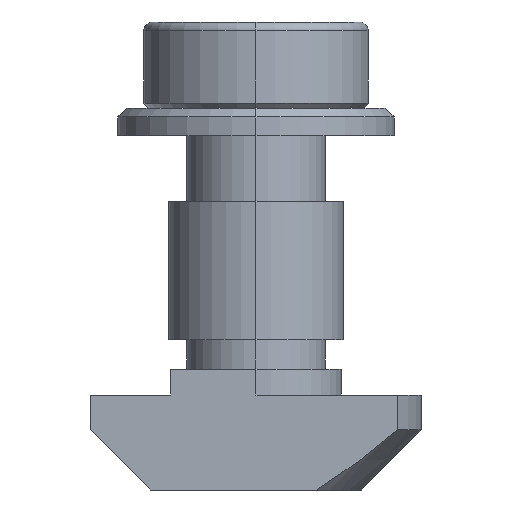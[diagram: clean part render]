
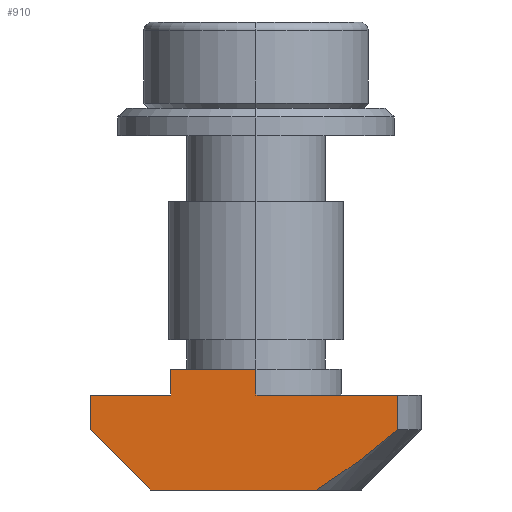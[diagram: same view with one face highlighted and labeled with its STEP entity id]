
A CAD part, left-side view. The second image highlights one B-rep face of the part: STEP entity #910.
In plain terms, the highlighted planar face has unit normal (-1, 0, 0).
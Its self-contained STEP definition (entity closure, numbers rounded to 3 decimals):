
#8 = EDGE_CURVE ( 'NONE', #2262, #1637, #306, .T. ) ;
#12 = ORIENTED_EDGE ( 'NONE', *, *, #2731, .T. ) ;
#29 = VERTEX_POINT ( 'NONE', #2485 ) ;
#39 = CARTESIAN_POINT ( 'NONE',  ( -4.95, 9.6, -6. ) ) ;
#57 = CARTESIAN_POINT ( 'NONE',  ( -4.95, -5.138, -10.437 ) ) ;
#90 = VECTOR ( 'NONE', #886, 1000. ) ;
#114 = CARTESIAN_POINT ( 'NONE',  ( -4.95, -3.494, -11.5 ) ) ;
#124 = ORIENTED_EDGE ( 'NONE', *, *, #2402, .T. ) ;
#129 = DIRECTION ( 'NONE',  ( 0., 0., 1. ) ) ;
#150 = DIRECTION ( 'NONE',  ( 0., -1., 0. ) ) ;
#172 = EDGE_CURVE ( 'NONE', #1883, #2743, #2304, .T. ) ;
#220 = DIRECTION ( 'NONE',  ( 0., 1., 0. ) ) ;
#236 = CARTESIAN_POINT ( 'NONE',  ( -4.95, 9.6, -8. ) ) ;
#292 = CARTESIAN_POINT ( 'NONE',  ( -4.95, -8.195, -8. ) ) ;
#306 = LINE ( 'NONE', #2214, #2120 ) ;
#331 = ORIENTED_EDGE ( 'NONE', *, *, #2922, .F. ) ;
#466 = CARTESIAN_POINT ( 'NONE',  ( -4.95, 4.95, -4.5 ) ) ;
#498 = ORIENTED_EDGE ( 'NONE', *, *, #8, .T. ) ;
#528 = CARTESIAN_POINT ( 'NONE',  ( -4.95, -4.95, -4.5 ) ) ;
#534 = CARTESIAN_POINT ( 'NONE',  ( -4.95, -8.195, -6. ) ) ;
#690 = CARTESIAN_POINT ( 'NONE',  ( -4.95, -8.195, -8. ) ) ;
#693 = VERTEX_POINT ( 'NONE', #2216 ) ;
#809 = VECTOR ( 'NONE', #2486, 1000. ) ;
#816 = DIRECTION ( 'NONE',  ( 0., 0., -1. ) ) ;
#821 = CARTESIAN_POINT ( 'NONE',  ( -4.95, -3.921, -11.255 ) ) ;
#860 = CARTESIAN_POINT ( 'NONE',  ( -4.95, 4.95, -4.5 ) ) ;
#886 = DIRECTION ( 'NONE',  ( 0., 0., 1. ) ) ;
#901 = ORIENTED_EDGE ( 'NONE', *, *, #2060, .T. ) ;
#910 = ADVANCED_FACE ( 'NONE', ( #2632 ), #2385, .F. ) ;
#964 = LINE ( 'NONE', #528, #2910 ) ;
#968 = EDGE_CURVE ( 'NONE', #2953, #29, #2436, .T. ) ;
#998 = VECTOR ( 'NONE', #1282, 1000. ) ;
#1011 = CARTESIAN_POINT ( 'NONE',  ( -4.95, -5.532, -10.148 ) ) ;
#1042 = VECTOR ( 'NONE', #2438, 1000. ) ;
#1101 = ORIENTED_EDGE ( 'NONE', *, *, #1983, .F. ) ;
#1179 = DIRECTION ( 'NONE',  ( 1., 0., 0. ) ) ;
#1206 = VERTEX_POINT ( 'NONE', #466 ) ;
#1282 = DIRECTION ( 'NONE',  ( 0., -1., 0. ) ) ;
#1295 = CARTESIAN_POINT ( 'NONE',  ( -4.95, -7.451, -8.636 ) ) ;
#1315 = LINE ( 'NONE', #2488, #998 ) ;
#1317 = ORIENTED_EDGE ( 'NONE', *, *, #2938, .T. ) ;
#1330 = LINE ( 'NONE', #860, #2769 ) ;
#1341 = LINE ( 'NONE', #2306, #90 ) ;
#1377 = B_SPLINE_CURVE_WITH_KNOTS ( 'NONE', 3,
 ( #114, #821, #1763, #57, #1011, #2292, #1295, #292 ),
 .UNSPECIFIED., .F., .F.,
 ( 4, 2, 2, 4 ),
 ( 0., 0.001, 0.003, 0.006 ),
 .UNSPECIFIED. ) ;
#1467 = VECTOR ( 'NONE', #816, 1000. ) ;
#1509 = CARTESIAN_POINT ( 'NONE',  ( -4.95, -9.6, -6. ) ) ;
#1513 = VERTEX_POINT ( 'NONE', #2748 ) ;
#1529 = CARTESIAN_POINT ( 'NONE',  ( -4.95, 9.6, -6. ) ) ;
#1637 = VERTEX_POINT ( 'NONE', #534 ) ;
#1685 = CARTESIAN_POINT ( 'NONE',  ( -4.95, 0., -6. ) ) ;
#1704 = ORIENTED_EDGE ( 'NONE', *, *, #3038, .F. ) ;
#1708 = VECTOR ( 'NONE', #150, 1000. ) ;
#1763 = CARTESIAN_POINT ( 'NONE',  ( -4.95, -4.333, -10.99 ) ) ;
#1794 = AXIS2_PLACEMENT_3D ( 'NONE', #2613, #1179, #220 ) ;
#1843 = CARTESIAN_POINT ( 'NONE',  ( -4.95, -3.494, -11.5 ) ) ;
#1883 = VERTEX_POINT ( 'NONE', #2376 ) ;
#1983 = EDGE_CURVE ( 'NONE', #1206, #693, #964, .T. ) ;
#2060 = EDGE_CURVE ( 'NONE', #1206, #1513, #1330, .T. ) ;
#2120 = VECTOR ( 'NONE', #129, 1000. ) ;
#2201 = EDGE_LOOP ( 'NONE', ( #3045, #1317, #498, #331, #12, #1101, #901, #1704, #3050, #124 ) ) ;
#2214 = CARTESIAN_POINT ( 'NONE',  ( -4.95, -8.195, -11.501 ) ) ;
#2216 = CARTESIAN_POINT ( 'NONE',  ( -4.95, 0., -4.5 ) ) ;
#2232 = LINE ( 'NONE', #1509, #809 ) ;
#2262 = VERTEX_POINT ( 'NONE', #690 ) ;
#2292 = CARTESIAN_POINT ( 'NONE',  ( -4.95, -6.696, -9.258 ) ) ;
#2304 = LINE ( 'NONE', #2804, #1708 ) ;
#2306 = CARTESIAN_POINT ( 'NONE',  ( -4.95, 0., -13. ) ) ;
#2313 = DIRECTION ( 'NONE',  ( 0., 0., -1. ) ) ;
#2376 = CARTESIAN_POINT ( 'NONE',  ( -4.95, 6.1, -11.5 ) ) ;
#2385 = PLANE ( 'NONE',  #1794 ) ;
#2394 = VERTEX_POINT ( 'NONE', #1685 ) ;
#2402 = EDGE_CURVE ( 'NONE', #29, #1883, #2657, .T. ) ;
#2436 = LINE ( 'NONE', #39, #1467 ) ;
#2438 = DIRECTION ( 'NONE',  ( 0., -0.707, -0.707 ) ) ;
#2485 = CARTESIAN_POINT ( 'NONE',  ( -4.95, 9.6, -8. ) ) ;
#2486 = DIRECTION ( 'NONE',  ( 0., -1., 0. ) ) ;
#2488 = CARTESIAN_POINT ( 'NONE',  ( -4.95, -9.6, -6. ) ) ;
#2613 = CARTESIAN_POINT ( 'NONE',  ( -4.95, -9.6, -6. ) ) ;
#2632 = FACE_OUTER_BOUND ( 'NONE', #2201, .T. ) ;
#2657 = LINE ( 'NONE', #236, #1042 ) ;
#2731 = EDGE_CURVE ( 'NONE', #2394, #693, #1341, .T. ) ;
#2743 = VERTEX_POINT ( 'NONE', #1843 ) ;
#2748 = CARTESIAN_POINT ( 'NONE',  ( -4.95, 4.95, -6. ) ) ;
#2769 = VECTOR ( 'NONE', #2313, 1000. ) ;
#2804 = CARTESIAN_POINT ( 'NONE',  ( -4.95, -9.6, -11.5 ) ) ;
#2894 = DIRECTION ( 'NONE',  ( 0., -1., 0. ) ) ;
#2910 = VECTOR ( 'NONE', #2894, 1000. ) ;
#2922 = EDGE_CURVE ( 'NONE', #2394, #1637, #1315, .T. ) ;
#2938 = EDGE_CURVE ( 'NONE', #2743, #2262, #1377, .T. ) ;
#2953 = VERTEX_POINT ( 'NONE', #1529 ) ;
#3038 = EDGE_CURVE ( 'NONE', #2953, #1513, #2232, .T. ) ;
#3045 = ORIENTED_EDGE ( 'NONE', *, *, #172, .T. ) ;
#3050 = ORIENTED_EDGE ( 'NONE', *, *, #968, .T. ) ;
